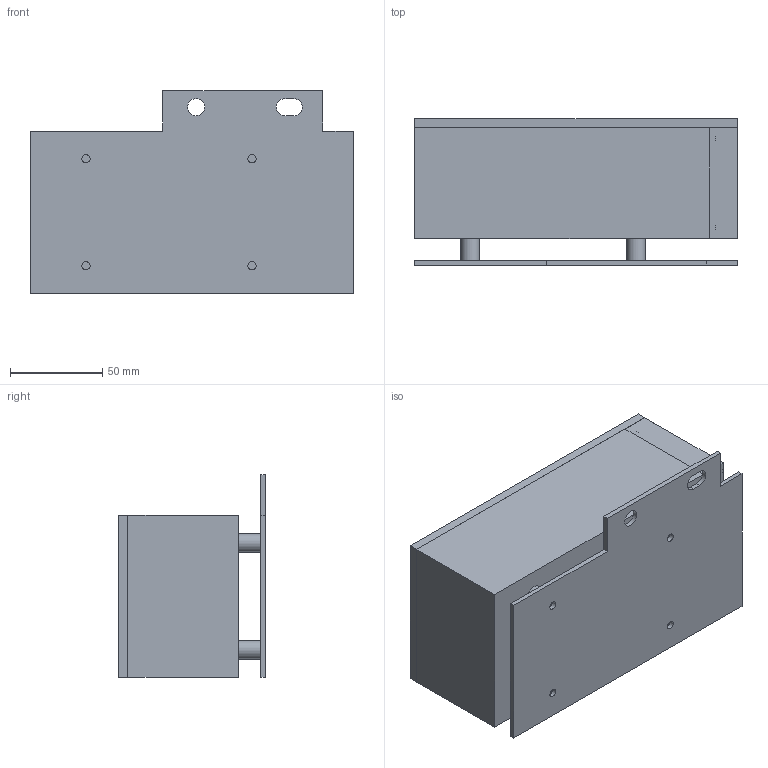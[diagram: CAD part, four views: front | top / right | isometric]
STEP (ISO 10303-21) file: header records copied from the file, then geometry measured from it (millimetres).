
FILE_DESCRIPTION(('FreeCAD Model'),'2;1');
FILE_NAME('Open CASCADE Shape Model','2026-09-11T17:58:36',( '' ),( '' ),'Open CASCADE STEP processor 7.8','FreeCAD','Unknown');
FILE_SCHEMA(('AUTOMOTIVE_DESIGN { 1 0 10303 214 1 1 1 1 }'));
Length unit declared in the file: millimetre
Products named in the file (1): Open CASCADE STEP translator 7.8 36
Bounding box: 175 x 79.5 x 110 mm (x, y, z)
Volume: 410268.8 mm3; surface area: 221311.3 mm2
Topology: 13 solids, 13 shells, 381 faces, 942 edges, 628 vertices
Faces by surface type: plane 270, cylinder 101, cone 10
Full cylindrical faces by diameter (mm): 2.4 x4, 3.6 x18, 4 x18, 4.5 x8, 6 x4, 6.8 x4, 7.2 x4, 8 x4, 9.2 x1, 10 x4, 10.4 x4, 11.4 x3, 12.5 x3
Entity records: 11449 total; most frequent: DIRECTION 1969, CARTESIAN_POINT 1956, ORIENTED_EDGE 1884, EDGE_CURVE 942, LINE 671, VECTOR 671, AXIS2_PLACEMENT_3D 649, VERTEX_POINT 628
